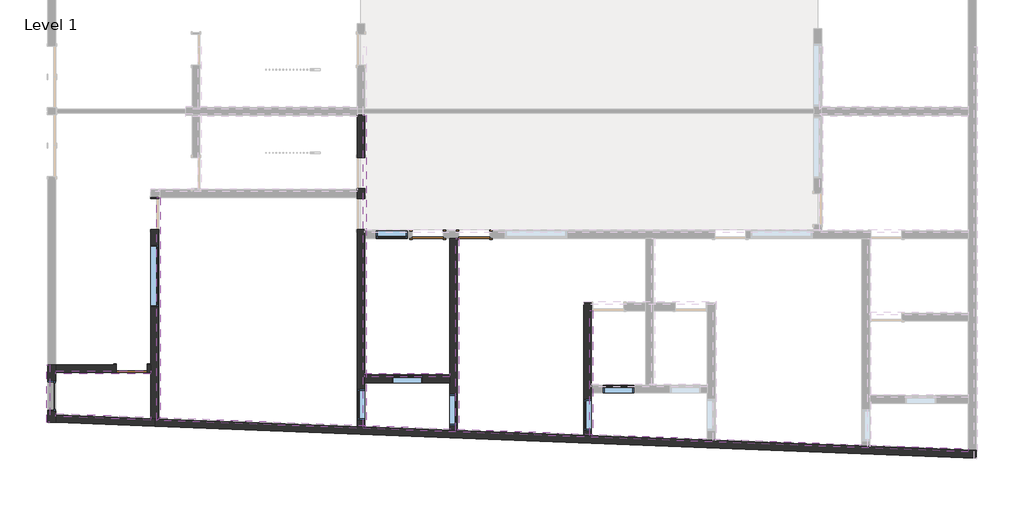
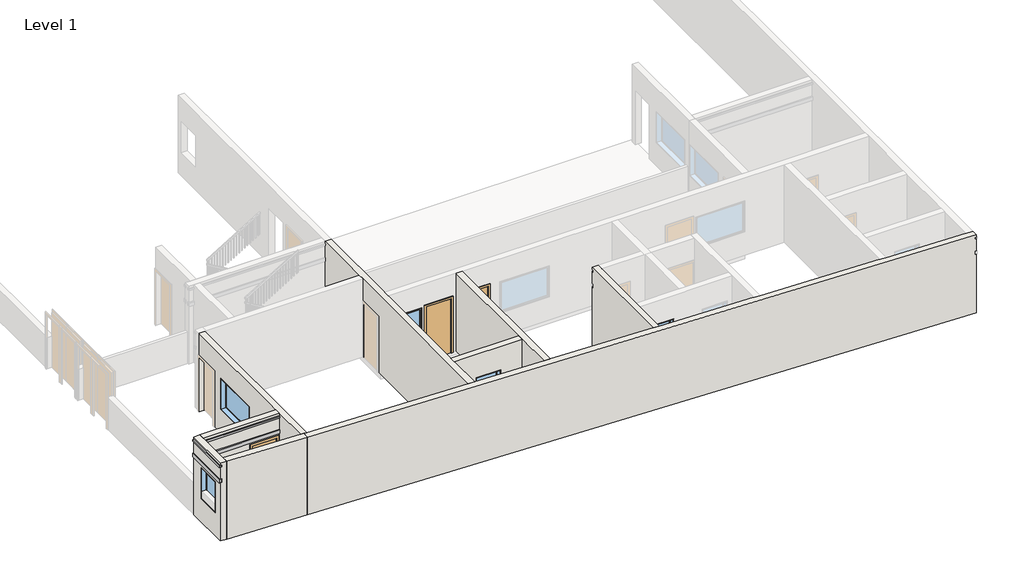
# One storey, part 1 of 5: 18 proxies, 9 walls, 8 windows, 3 doors.
"""IFC4 building model written with IfcOpenShell, lengths in millimetres."""

from ifc_helpers import new_model, si_unit, frame, origin, place, context, project, spatial, polyline, outline, extrude, faceted_brep, transform, mapped, element, save
from components import door_0ca8825f, door_a90ba1ad, window_c1f32544, window_26734613, fixed_6_x4_596a66d7

model = new_model("IFC4")

# Units and contexts
model_context = context("Model", 3, world=origin())
ifc_project = project(units=[si_unit("LENGTHUNIT", "METRE", prefix="MILLI")], contexts=[model_context])

# Site, building, storey
site = spatial("IfcSite", under=ifc_project)
building = spatial("IfcBuilding", under=site)
storey = spatial("IfcBuildingStorey", under=building, Name="Level 1", Elevation=0.0)

# Proxies
placement = place(None, origin())
element("IfcBuildingElementProxy", 1, Name="Reveals", at=placement, inside=storey, context=model_context, shape_type="SweptSolid", body=[
    extrude(outline(polyline([(-7864.3892301, 3342.8239224), (-7772.3142301, 3342.8239224), (-7772.3142301, -5885.6857908), (-7864.3892301, -5885.6857908), (-7864.3892301, 3342.8239224)])), frame((0.0, 0.0, 2895.6), z_axis=(0.0, 0.0, 1.0), x_axis=(1.0, 0.0, 0.0)), (0.0, 0.0, 1.0), 67.7333333),
])
element("IfcBuildingElementProxy", 2, Name="Reveals", at=placement, inside=storey, context=model_context, shape_type="SweptSolid", body=[
    extrude(outline(polyline([(-13960.3892301, -5697.4819677), (-13868.3142301, -5608.9180638), (10042.6107699, -6538.7873694), (10042.6107699, -6630.9319677), (-13960.3892301, -5697.4819677)])), frame((0.0, 0.0, 2895.6), z_axis=(0.0, 0.0, 1.0), x_axis=(1.0, 0.0, 0.0)), (0.0, 0.0, 1.0), 67.7333333),
])
element("IfcBuildingElementProxy", 3, Name="Reveals", at=placement, inside=storey, context=model_context, shape_type="SweptSolid", body=[
    extrude(outline(polyline([(-17135.3892301, -5751.9441422), (-17227.4642301, -5748.3634477), (-17227.4642301, -4048.5760776), (-17135.3892301, -4048.5760776), (-17135.3892301, -5751.9441422)])), frame((0.0, 0.0, 2895.6), z_axis=(0.0, 0.0, 1.0), x_axis=(1.0, 0.0, 0.0)), (0.0, 0.0, 1.0), 67.7333333),
])
element("IfcBuildingElementProxy", 4, Name="Reveals", at=placement, inside=storey, context=model_context, shape_type="SweptSolid", body=[
    extrude(outline(polyline([(-16957.5892301, -5580.9241899), (-16957.5892301, -5488.7795916), (-14138.1892301, -5598.4229249), (-14138.1892301, -5690.5675232), (-16957.5892301, -5580.9241899)])), frame((0.0, 0.0, 2895.6), z_axis=(0.0, 0.0, 1.0), x_axis=(1.0, 0.0, 0.0)), (0.0, 0.0, 1.0), 67.7333333),
])
element("IfcBuildingElementProxy", 5, Name="Reveals", at=placement, inside=storey, context=model_context, shape_type="SweptSolid", body=[
    extrude(outline(polyline([(-13960.3892301, 904.4239224), (-13868.3142301, 904.4239224), (-13868.3142301, -5608.9180638), (-13960.3892301, -5697.4819677), (-13960.3892301, 904.4239224)])), frame((0.0, 0.0, 2895.6), z_axis=(0.0, 0.0, 1.0), x_axis=(1.0, 0.0, 0.0)), (0.0, 0.0, 1.0), 67.7333333),
])
element("IfcBuildingElementProxy", 6, Name="Reveals", at=placement, inside=storey, context=model_context, shape_type="SweptSolid", body=[
    extrude(outline(polyline([(-5121.1892301, -314.7760776), (-5029.1142301, -314.7760776), (-5029.1142301, -5992.3657908), (-5121.1892301, -5992.3657908), (-5121.1892301, -314.7760776)])), frame((0.0, 0.0, 2895.6), z_axis=(0.0, 0.0, 1.0), x_axis=(1.0, 0.0, 0.0)), (0.0, 0.0, 1.0), 67.7333333),
])
element("IfcBuildingElementProxy", 7, Name="Reveals", at=placement, inside=storey, context=model_context, shape_type="SweptSolid", body=[
    extrude(outline(polyline([(-7813.5892301, -4404.1760776), (-7813.5892301, -4312.1010776), (-5298.9892301, -4312.1010776), (-5298.9892301, -4404.1760776), (-7813.5892301, -4404.1760776)])), frame((0.0, 0.0, 2895.6), z_axis=(0.0, 0.0, 1.0), x_axis=(1.0, 0.0, 0.0)), (0.0, 0.0, 1.0), 67.7333333),
])
element("IfcBuildingElementProxy", 8, Name="Reveals", at=placement, inside=storey, context=model_context, shape_type="SweptSolid", body=[
    extrude(outline(polyline([(-1158.7892301, -2448.3760776), (-1066.7142301, -2448.3760776), (-1066.7142301, -6146.4591242), (-1158.7892301, -6146.4591242), (-1158.7892301, -2448.3760776)])), frame((0.0, 0.0, 2895.6), z_axis=(0.0, 0.0, 1.0), x_axis=(1.0, 0.0, 0.0)), (0.0, 0.0, 1.0), 67.7333333),
])
element("IfcBuildingElementProxy", 9, Name="Reveals", at=placement, inside=storey, context=model_context, shape_type="SweptSolid", body=[
    extrude(outline(polyline([(-14138.1892301, -4226.3760776), (-14138.1892301, -4318.4510776), (-16957.5892301, -4318.4510776), (-16957.5892301, -4226.3760776), (-14138.1892301, -4226.3760776)])), frame((0.0, 0.0, 2895.6), z_axis=(0.0, 0.0, 1.0), x_axis=(1.0, 0.0, 0.0)), (0.0, 0.0, 1.0), 67.7333333),
])
element("IfcBuildingElementProxy", 10, Name="Reveals", at=placement, inside=storey, context=model_context, shape_type="SweptSolid", body=[
    extrude(outline(polyline([(-7864.3892301, 3342.8239224), (-7772.3142301, 3342.8239224), (-7772.3142301, -5885.6857908), (-7864.3892301, -5885.6857908), (-7864.3892301, 3342.8239224)])), frame((0.0, 0.0, 2286.0), z_axis=(0.0, 0.0, 1.0), x_axis=(1.0, 0.0, 0.0)), (0.0, 0.0, 1.0), 135.4666667),
])
element("IfcBuildingElementProxy", 11, Name="Reveals", at=placement, inside=storey, context=model_context, shape_type="SweptSolid", body=[
    extrude(outline(polyline([(-13960.3892301, -5697.4819677), (-13868.3142301, -5608.9180638), (10042.6107699, -6538.7873694), (10042.6107699, -6630.9319677), (-13960.3892301, -5697.4819677)])), frame((0.0, 0.0, 2286.0), z_axis=(0.0, 0.0, 1.0), x_axis=(1.0, 0.0, 0.0)), (0.0, 0.0, 1.0), 135.4666667),
])
element("IfcBuildingElementProxy", 12, Name="Reveals", at=placement, inside=storey, context=model_context, shape_type="SweptSolid", body=[
    extrude(outline(polyline([(-17135.3892301, -5751.9441422), (-17227.4642301, -5748.3634477), (-17227.4642301, -4048.5760776), (-17135.3892301, -4048.5760776), (-17135.3892301, -5751.9441422)])), frame((0.0, 0.0, 2286.0), z_axis=(0.0, 0.0, 1.0), x_axis=(1.0, 0.0, 0.0)), (0.0, 0.0, 1.0), 135.4666667),
])
element("IfcBuildingElementProxy", 13, Name="Reveals", at=placement, inside=storey, context=model_context, shape_type="SweptSolid", body=[
    extrude(outline(polyline([(-16957.5892301, -5580.9241899), (-16957.5892301, -5488.7795916), (-14138.1892301, -5598.4229249), (-14138.1892301, -5690.5675232), (-16957.5892301, -5580.9241899)])), frame((0.0, 0.0, 2286.0), z_axis=(0.0, 0.0, 1.0), x_axis=(1.0, 0.0, 0.0)), (0.0, 0.0, 1.0), 135.4666667),
])
element("IfcBuildingElementProxy", 14, Name="Reveals", at=placement, inside=storey, context=model_context, shape_type="SweptSolid", body=[
    extrude(outline(polyline([(-13960.3892301, 904.4239224), (-13868.3142301, 904.4239224), (-13868.3142301, -5608.9180638), (-13960.3892301, -5697.4819677), (-13960.3892301, 904.4239224)])), frame((0.0, 0.0, 2286.0), z_axis=(0.0, 0.0, 1.0), x_axis=(1.0, 0.0, 0.0)), (0.0, 0.0, 1.0), 135.4666667),
])
element("IfcBuildingElementProxy", 15, Name="Reveals", at=placement, inside=storey, context=model_context, shape_type="SweptSolid", body=[
    extrude(outline(polyline([(-5121.1892301, -314.7760776), (-5029.1142301, -314.7760776), (-5029.1142301, -5992.3657908), (-5121.1892301, -5992.3657908), (-5121.1892301, -314.7760776)])), frame((0.0, 0.0, 2286.0), z_axis=(0.0, 0.0, 1.0), x_axis=(1.0, 0.0, 0.0)), (0.0, 0.0, 1.0), 135.4666667),
])
element("IfcBuildingElementProxy", 16, Name="Reveals", at=placement, inside=storey, context=model_context, shape_type="SweptSolid", body=[
    extrude(outline(polyline([(-7813.5892301, -4404.1760776), (-7813.5892301, -4312.1010776), (-5298.9892301, -4312.1010776), (-5298.9892301, -4404.1760776), (-7813.5892301, -4404.1760776)])), frame((0.0, 0.0, 2286.0), z_axis=(0.0, 0.0, 1.0), x_axis=(1.0, 0.0, 0.0)), (0.0, 0.0, 1.0), 135.4666667),
])
element("IfcBuildingElementProxy", 17, Name="Reveals", at=placement, inside=storey, context=model_context, shape_type="SweptSolid", body=[
    extrude(outline(polyline([(-1158.7892301, -2448.3760776), (-1066.7142301, -2448.3760776), (-1066.7142301, -6146.4591242), (-1158.7892301, -6146.4591242), (-1158.7892301, -2448.3760776)])), frame((0.0, 0.0, 2286.0), z_axis=(0.0, 0.0, 1.0), x_axis=(1.0, 0.0, 0.0)), (0.0, 0.0, 1.0), 135.4666667),
])
element("IfcBuildingElementProxy", 18, Name="Reveals", at=placement, inside=storey, context=model_context, shape_type="SweptSolid", body=[
    extrude(outline(polyline([(-14138.1892301, -4226.3760776), (-14138.1892301, -4318.4510776), (-16957.5892301, -4318.4510776), (-16957.5892301, -4226.3760776), (-14138.1892301, -4226.3760776)])), frame((0.0, 0.0, 2286.0), z_axis=(0.0, 0.0, 1.0), x_axis=(1.0, 0.0, 0.0)), (0.0, 0.0, 1.0), 135.4666667),
])

# Doors
door_shape = door_0ca8825f(model_context)
element("IfcDoor", 19, ObjectType="Single-Flush : 36\" x 84\"", at=placement, inside=storey, context=model_context, shape_type="MappedRepresentation", body=[
    mapped(door_shape, transform((-4575.0892301, -200.4760776, 0.0), x_axis=(-1.0, 0.0, 0.0), y_axis=(0.0, -1.0, 0.0), z_axis=(0.0, 0.0, 1.0))),
])
door_2_shape = door_a90ba1ad(model_context)
element("IfcDoor", 20, ObjectType="Single-Flush : 36\" x 84\"", at=placement, inside=storey, context=model_context, shape_type="MappedRepresentation", body=[
    mapped(door_2_shape, transform((-5946.6892301, -200.4760776, 0.0), x_axis=(1.0, 0.0, 0.0), y_axis=(0.0, 1.0, 0.0), z_axis=(0.0, 0.0, 1.0))),
])
element("IfcDoor", 21, ObjectType="Single-Flush : 36\" x 84\"", at=placement, inside=storey, context=model_context, shape_type="MappedRepresentation", body=[
    mapped(door_2_shape, transform((-14709.6892301, -4162.8760776, 0.0), x_axis=(1.0, 0.0, 0.0), y_axis=(0.0, 1.0, 0.0), z_axis=(0.0, 0.0, 1.0))),
])

# Walls
element("IfcWall", 22, ObjectType="9\" thick brick wall", at=placement, inside=storey, context=model_context, shape_type="Brep", body=[
    faceted_brep([(-16957.5892301, -5758.8585866, 0.0), (-16957.5892301, -5530.0857908, 0.0), (-16957.5892301, -4277.1760776, 0.0), (-16957.5892301, -4048.5760776, 0.0), (-16957.5892301, -4048.5760776, 3048.0), (-16957.5892301, -4277.1760776, 3048.0), (-16957.5892301, -5530.0857908, 3048.0), (-16957.5892301, -5758.8585866, 3048.0), (-16957.5892301, -4518.4760776, 2133.6), (-16957.5892301, -4518.4760776, 914.4), (-16957.5892301, -5432.8760776, 914.4), (-16957.5892301, -5432.8760776, 2133.6), (-17186.1892301, -4048.5760776, 0.0), (-17186.1892301, -5749.9685866, 0.0), (-17186.1892301, -5749.9685866, 2286.0), (-17186.1892301, -4048.5760776, 2286.0), (-17186.1892301, -4518.4760776, 914.4), (-17186.1892301, -4518.4760776, 2133.6), (-17186.1892301, -5432.8760776, 2133.6), (-17186.1892301, -5432.8760776, 914.4), (-17186.1892301, -5749.9685866, 3048.0), (-17186.1892301, -4048.5760776, 3048.0), (-17186.1892301, -4048.5760776, 2963.3333333), (-17186.1892301, -5749.9685866, 2963.3333333), (-17186.1892301, -5749.9685866, 2895.6), (-17186.1892301, -4048.5760776, 2895.6), (-17186.1892301, -4048.5760776, 2421.4666667), (-17186.1892301, -5749.9685866, 2421.4666667), (-17135.3892301, -5751.9441422, 2963.3333333), (-17135.3892301, -5751.9441422, 2895.6), (-17135.3892301, -5751.9441422, 2421.4666667), (-17135.3892301, -5751.9441422, 2286.0), (-17135.3892301, -4048.5760776, 2286.0), (-17135.3892301, -4048.5760776, 2421.4666667), (-17135.3892301, -4048.5760776, 2895.6), (-17135.3892301, -4048.5760776, 2963.3333333)], [[[0, 1, 2, 3, 4, 5, 6, 7], [8, 9, 10, 11]], [[12, 13, 14, 15], [16, 17, 18, 19]], [[20, 21, 22, 23]], [[24, 25, 26, 27]], [[3, 2, 1, 0, 13, 12]], [[7, 6, 5, 4, 21, 20]], [[13, 0, 7, 20, 23, 28, 29, 24, 27, 30, 31, 14]], [[4, 3, 12, 15, 32, 33, 26, 25, 34, 35, 22, 21]], [[9, 8, 17, 16]], [[10, 9, 16, 19]], [[11, 10, 19, 18]], [[8, 11, 18, 17]], [[35, 28, 23, 22]], [[29, 34, 25, 24]], [[28, 35, 34, 29]], [[33, 30, 27, 26]], [[31, 32, 15, 14]], [[30, 33, 32, 31]]]),
])
element("IfcWall", 23, ObjectType="9\" thick brick wall", at=placement, inside=storey, context=model_context, shape_type="Brep", body=[
    faceted_brep([(-16957.5892301, -5758.8585866, 0.0), (-14028.3308727, -5872.7741894, 0.0), (-14028.3308727, -5872.7741894, 3048.0), (-16957.5892301, -5758.8585866, 3048.0), (-14019.4475875, -5644.3468547, 0.0), (-14138.1892301, -5639.7291242, 0.0), (-16957.5892301, -5530.0857908, 0.0), (-16957.5892301, -5530.0857908, 2286.0), (-14138.1892301, -5639.7291242, 2286.0), (-14138.1892301, -5639.7291242, 2421.4666667), (-16957.5892301, -5530.0857908, 2421.4666667), (-16957.5892301, -5530.0857908, 2895.6), (-14138.1892301, -5639.7291242, 2895.6), (-14138.1892301, -5639.7291242, 2963.3333333), (-16957.5892301, -5530.0857908, 2963.3333333), (-16957.5892301, -5530.0857908, 3048.0), (-14138.1892301, -5639.7291242, 3048.0), (-14019.4475875, -5644.3468547, 3048.0), (-16957.5892301, -5580.9241899, 2963.3333333), (-16957.5892301, -5580.9241899, 2895.6), (-16957.5892301, -5580.9241899, 2421.4666667), (-16957.5892301, -5580.9241899, 2286.0), (-14138.1892301, -5690.5675232, 2895.6), (-14138.1892301, -5690.5675232, 2963.3333333), (-14138.1892301, -5690.5675232, 2286.0), (-14138.1892301, -5690.5675232, 2421.4666667)], [[[0, 1, 2, 3]], [[4, 5, 6, 7, 8, 9, 10, 11, 12, 13, 14, 15, 16, 17]], [[1, 0, 6, 5, 4]], [[2, 1, 4, 17]], [[3, 2, 17, 16, 15]], [[0, 3, 15, 14, 18, 19, 11, 10, 20, 21, 7, 6]], [[22, 23, 13, 12]], [[23, 18, 14, 13]], [[19, 22, 12, 11]], [[23, 22, 19, 18]], [[24, 25, 9, 8]], [[25, 20, 10, 9]], [[21, 24, 8, 7]], [[25, 24, 21, 20]]]),
])
element("IfcWall", 24, ObjectType="9\" thick brick wall", at=placement, inside=storey, context=model_context, shape_type="Brep", body=[
    faceted_brep([(-14138.1892301, -5639.7291242, 3048.0), (-14138.1892301, -4277.1760776, 3048.0), (-14138.1892301, -4048.5760776, 3048.0), (-14138.1892301, 904.4239224, 3048.0), (-14138.1892301, 904.4239224, 0.0), (-14138.1892301, 866.3239224, 0.0), (-14138.1892301, 866.3239224, 2133.6), (-14138.1892301, -48.0760776, 2133.6), (-14138.1892301, -48.0760776, 0.0), (-14138.1892301, -4048.5760776, 0.0), (-14138.1892301, -4277.1760776, 0.0), (-14138.1892301, -5639.7291242, 0.0), (-14138.1892301, -5639.7291242, 2286.0), (-14138.1892301, -5639.7291242, 2421.4666667), (-14138.1892301, -5639.7291242, 2895.6), (-14138.1892301, -5639.7291242, 2963.3333333), (-14138.1892301, -505.2760776, 914.4), (-14138.1892301, -505.2760776, 2133.6), (-14138.1892301, -2334.0760776, 2133.6), (-14138.1892301, -2334.0760776, 914.4), (-13909.5892301, 904.4239224, 3048.0), (-13909.5892301, -5648.6191242, 3048.0), (-13909.5892301, -5648.6191242, 2963.3333333), (-13909.5892301, 904.4239224, 2963.3333333), (-13909.5892301, 866.3239224, 2133.6), (-13909.5892301, 866.3239224, 0.0), (-13909.5892301, 904.4239224, 0.0), (-13909.5892301, 904.4239224, 2286.0), (-13909.5892301, -5648.6191242, 2286.0), (-13909.5892301, -5648.6191242, 0.0), (-13909.5892301, -48.0760776, 0.0), (-13909.5892301, -48.0760776, 2133.6), (-13909.5892301, -505.2760776, 2133.6), (-13909.5892301, -505.2760776, 914.4), (-13909.5892301, -2334.0760776, 914.4), (-13909.5892301, -2334.0760776, 2133.6), (-13909.5892301, 904.4239224, 2895.6), (-13909.5892301, -5648.6191242, 2895.6), (-13909.5892301, -5648.6191242, 2421.4666667), (-13909.5892301, 904.4239224, 2421.4666667), (-14019.4475875, -5644.3468547, 0.0), (-14019.4475875, -5644.3468547, 3048.0), (-13960.3892301, -5646.6435686, 2286.0), (-13960.3892301, -5646.6435686, 2421.4666667), (-13960.3892301, -5646.6435686, 2895.6), (-13960.3892301, -5646.6435686, 2963.3333333), (-13960.3892301, 904.4239224, 2963.3333333), (-13960.3892301, 904.4239224, 2895.6), (-13960.3892301, 904.4239224, 2421.4666667), (-13960.3892301, 904.4239224, 2286.0)], [[[0, 1, 2, 3, 4, 5, 6, 7, 8, 9, 10, 11, 12, 13, 14, 15], [16, 17, 18, 19]], [[20, 21, 22, 23]], [[24, 25, 26, 27, 28, 29, 30, 31], [32, 33, 34, 35]], [[36, 37, 38, 39]], [[29, 40, 11, 10, 9, 8, 30]], [[4, 26, 25, 5]], [[3, 2, 1, 0, 41, 21, 20]], [[11, 40, 29, 28, 42, 43, 38, 37, 44, 45, 22, 21, 41, 0, 15, 14, 13, 12]], [[4, 3, 20, 23, 46, 47, 36, 39, 48, 49, 27, 26]], [[6, 5, 25, 24]], [[7, 6, 24, 31]], [[8, 7, 31, 30]], [[33, 32, 17, 16]], [[34, 33, 16, 19]], [[35, 34, 19, 18]], [[32, 35, 18, 17]], [[45, 46, 23, 22]], [[47, 44, 37, 36]], [[44, 47, 46, 45]], [[43, 48, 39, 38]], [[49, 42, 28, 27]], [[48, 43, 42, 49]]]),
])
element("IfcWall", 25, ObjectType="9\" thick brick wall", at=placement, inside=storey, context=model_context, shape_type="Brep", body=[
    faceted_brep([(-8042.1892301, -5876.7957908, 3048.0), (-8042.1892301, 904.4239224, 3048.0), (-8042.1892301, 1133.0239224, 3048.0), (-8042.1892301, 3342.8239224, 3048.0), (-8042.1892301, 3342.8239224, 2963.3333333), (-8042.1892301, 3342.8239224, 2895.6), (-8042.1892301, 3342.8239224, 2421.4666667), (-8042.1892301, 3342.8239224, 2286.0), (-8042.1892301, 3342.8239224, 0.0), (-8042.1892301, 2085.5239224, 0.0), (-8042.1892301, 2085.5239224, 2133.6), (-8042.1892301, 1171.1239224, 2133.6), (-8042.1892301, 1171.1239224, 0.0), (-8042.1892301, 1133.0239224, 0.0), (-8042.1892301, 904.4239224, 0.0), (-8042.1892301, 866.3239224, 0.0), (-8042.1892301, 866.3239224, 2133.6), (-8042.1892301, -48.0760776, 2133.6), (-8042.1892301, -48.0760776, 0.0), (-8042.1892301, -5876.7957908, 0.0), (-8042.1892301, -5686.8760776, 2133.6), (-8042.1892301, -5686.8760776, 914.4), (-8042.1892301, -4772.4760776, 914.4), (-8042.1892301, -4772.4760776, 2133.6), (-7813.5892301, 3342.8239224, 3048.0), (-7813.5892301, -86.1760776, 3048.0), (-7813.5892301, -314.7760776, 3048.0), (-7813.5892301, -4353.3760776, 3048.0), (-7813.5892301, -4581.9760776, 3048.0), (-7813.5892301, -5885.6857908, 3048.0), (-7813.5892301, -5885.6857908, 2963.3333333), (-7813.5892301, 3342.8239224, 2963.3333333), (-7813.5892301, 866.3239224, 2133.6), (-7813.5892301, 866.3239224, 0.0), (-7813.5892301, 1171.1239224, 0.0), (-7813.5892301, 1171.1239224, 2133.6), (-7813.5892301, 2085.5239224, 2133.6), (-7813.5892301, 2085.5239224, 0.0), (-7813.5892301, 3342.8239224, 0.0), (-7813.5892301, 3342.8239224, 2286.0), (-7813.5892301, -5885.6857908, 2286.0), (-7813.5892301, -5885.6857908, 0.0), (-7813.5892301, -4581.9760776, 0.0), (-7813.5892301, -4353.3760776, 0.0), (-7813.5892301, -314.7760776, 0.0), (-7813.5892301, -86.1760776, 0.0), (-7813.5892301, -48.0760776, 0.0), (-7813.5892301, -48.0760776, 2133.6), (-7813.5892301, -5686.8760776, 914.4), (-7813.5892301, -5686.8760776, 2133.6), (-7813.5892301, -4772.4760776, 2133.6), (-7813.5892301, -4772.4760776, 914.4), (-7813.5892301, 3342.8239224, 2895.6), (-7813.5892301, -5885.6857908, 2895.6), (-7813.5892301, -5885.6857908, 2421.4666667), (-7813.5892301, 3342.8239224, 2421.4666667), (-7864.3892301, -5883.7102353, 2286.0), (-7864.3892301, -5883.7102353, 2421.4666667), (-7864.3892301, -5883.7102353, 2895.6), (-7864.3892301, -5883.7102353, 2963.3333333), (-7864.3892301, 3342.8239224, 2963.3333333), (-7864.3892301, 3342.8239224, 2895.6), (-7864.3892301, 3342.8239224, 2421.4666667), (-7864.3892301, 3342.8239224, 2286.0)], [[[0, 1, 2, 3, 4, 5, 6, 7, 8, 9, 10, 11, 12, 13, 14, 15, 16, 17, 18, 19], [20, 21, 22, 23]], [[24, 25, 26, 27, 28, 29, 30, 31]], [[32, 33, 34, 35, 36, 37, 38, 39, 40, 41, 42, 43, 44, 45, 46, 47], [48, 49, 50, 51]], [[52, 53, 54, 55]], [[41, 19, 18, 46, 45, 44, 43, 42]], [[8, 38, 37, 9]], [[33, 15, 14, 13, 12, 34]], [[3, 2, 1, 0, 29, 28, 27, 26, 25, 24]], [[0, 19, 41, 40, 56, 57, 54, 53, 58, 59, 30, 29]], [[3, 24, 31, 60, 61, 52, 55, 62, 63, 39, 38, 8, 7, 6, 5, 4]], [[16, 15, 33, 32]], [[17, 16, 32, 47]], [[18, 17, 47, 46]], [[35, 34, 12, 11]], [[36, 35, 11, 10]], [[37, 36, 10, 9]], [[21, 20, 49, 48]], [[22, 21, 48, 51]], [[23, 22, 51, 50]], [[20, 23, 50, 49]], [[59, 60, 31, 30]], [[61, 58, 53, 52]], [[58, 61, 60, 59]], [[57, 62, 55, 54]], [[63, 56, 40, 39]], [[62, 57, 56, 63]]]),
])
element("IfcWall", 26, ObjectType="9\" thick brick wall", at=placement, inside=storey, context=model_context, shape_type="Brep", body=[
    faceted_brep([(-5298.9892301, -314.7760776, 0.0), (-5298.9892301, -4353.3760776, 0.0), (-5298.9892301, -4581.9760776, 0.0), (-5298.9892301, -5983.4757908, 0.0), (-5298.9892301, -5983.4757908, 3048.0), (-5298.9892301, -4581.9760776, 3048.0), (-5298.9892301, -4353.3760776, 3048.0), (-5298.9892301, -314.7760776, 3048.0), (-5298.9892301, -4924.8760776, 914.4), (-5298.9892301, -4924.8760776, 2133.6), (-5298.9892301, -5839.2760776, 2133.6), (-5298.9892301, -5839.2760776, 914.4), (-5070.3892301, -5992.3657908, 0.0), (-5070.3892301, -314.7760776, 0.0), (-5070.3892301, -314.7760776, 2286.0), (-5070.3892301, -5992.3657908, 2286.0), (-5070.3892301, -4924.8760776, 2133.6), (-5070.3892301, -4924.8760776, 914.4), (-5070.3892301, -5839.2760776, 914.4), (-5070.3892301, -5839.2760776, 2133.6), (-5070.3892301, -314.7760776, 3048.0), (-5070.3892301, -5992.3657908, 3048.0), (-5070.3892301, -5992.3657908, 2963.3333333), (-5070.3892301, -314.7760776, 2963.3333333), (-5070.3892301, -314.7760776, 2895.6), (-5070.3892301, -5992.3657908, 2895.6), (-5070.3892301, -5992.3657908, 2421.4666667), (-5070.3892301, -314.7760776, 2421.4666667), (-5121.1892301, -314.7760776, 2963.3333333), (-5121.1892301, -314.7760776, 2895.6), (-5121.1892301, -314.7760776, 2421.4666667), (-5121.1892301, -314.7760776, 2286.0), (-5121.1892301, -5990.3902353, 2286.0), (-5121.1892301, -5990.3902353, 2421.4666667), (-5121.1892301, -5990.3902353, 2895.6), (-5121.1892301, -5990.3902353, 2963.3333333)], [[[0, 1, 2, 3, 4, 5, 6, 7], [8, 9, 10, 11]], [[12, 13, 14, 15], [16, 17, 18, 19]], [[20, 21, 22, 23]], [[24, 25, 26, 27]], [[3, 2, 1, 0, 13, 12]], [[7, 6, 5, 4, 21, 20]], [[0, 7, 20, 23, 28, 29, 24, 27, 30, 31, 14, 13]], [[4, 3, 12, 15, 32, 33, 26, 25, 34, 35, 22, 21]], [[17, 16, 9, 8]], [[18, 17, 8, 11]], [[19, 18, 11, 10]], [[16, 19, 10, 9]], [[35, 28, 23, 22]], [[29, 34, 25, 24]], [[34, 29, 28, 35]], [[33, 30, 27, 26]], [[31, 32, 15, 14]], [[30, 33, 32, 31]]]),
])
element("IfcWall", 27, ObjectType="9\" thick brick wall", at=placement, inside=storey, context=model_context, shape_type="Brep", body=[
    faceted_brep([(-7813.5892301, -4581.9760776, 0.0), (-5298.9892301, -4581.9760776, 0.0), (-5298.9892301, -4581.9760776, 3048.0), (-7813.5892301, -4581.9760776, 3048.0), (-7013.4892301, -4581.9760776, 914.4), (-7013.4892301, -4581.9760776, 2133.6), (-6099.0892301, -4581.9760776, 2133.6), (-6099.0892301, -4581.9760776, 914.4), (-5298.9892301, -4353.3760776, 0.0), (-7813.5892301, -4353.3760776, 0.0), (-7813.5892301, -4353.3760776, 2286.0), (-5298.9892301, -4353.3760776, 2286.0), (-7013.4892301, -4353.3760776, 2133.6), (-7013.4892301, -4353.3760776, 914.4), (-6099.0892301, -4353.3760776, 914.4), (-6099.0892301, -4353.3760776, 2133.6), (-7813.5892301, -4353.3760776, 3048.0), (-5298.9892301, -4353.3760776, 3048.0), (-5298.9892301, -4353.3760776, 2963.3333333), (-7813.5892301, -4353.3760776, 2963.3333333), (-7813.5892301, -4353.3760776, 2895.6), (-5298.9892301, -4353.3760776, 2895.6), (-5298.9892301, -4353.3760776, 2421.4666667), (-7813.5892301, -4353.3760776, 2421.4666667), (-7813.5892301, -4404.1760776, 2963.3333333), (-7813.5892301, -4404.1760776, 2895.6), (-7813.5892301, -4404.1760776, 2421.4666667), (-7813.5892301, -4404.1760776, 2286.0), (-5298.9892301, -4404.1760776, 2286.0), (-5298.9892301, -4404.1760776, 2421.4666667), (-5298.9892301, -4404.1760776, 2895.6), (-5298.9892301, -4404.1760776, 2963.3333333)], [[[0, 1, 2, 3], [4, 5, 6, 7]], [[8, 9, 10, 11], [12, 13, 14, 15]], [[16, 17, 18, 19]], [[20, 21, 22, 23]], [[1, 0, 9, 8]], [[3, 2, 17, 16]], [[0, 3, 16, 19, 24, 25, 20, 23, 26, 27, 10, 9]], [[2, 1, 8, 11, 28, 29, 22, 21, 30, 31, 18, 17]], [[13, 12, 5, 4]], [[14, 13, 4, 7]], [[15, 14, 7, 6]], [[12, 15, 6, 5]], [[31, 24, 19, 18]], [[25, 30, 21, 20]], [[24, 31, 30, 25]], [[29, 26, 23, 22]], [[27, 28, 11, 10]], [[26, 29, 28, 27]]]),
])
element("IfcWall", 28, ObjectType="9\" thick brick wall", at=placement, inside=storey, context=model_context, shape_type="Brep", body=[
    faceted_brep([(-1336.5892301, -2219.7760776, 0.0), (-1336.5892301, -6137.5691242, 0.0), (-1336.5892301, -6137.5691242, 3048.0), (-1336.5892301, -2219.7760776, 3048.0), (-1336.5892301, -2219.7760776, 2963.3333333), (-1336.5892301, -2270.5760776, 2963.3333333), (-1336.5892301, -2270.5760776, 2895.6), (-1336.5892301, -2219.7760776, 2895.6), (-1336.5892301, -2219.7760776, 2421.4666667), (-1336.5892301, -2270.5760776, 2421.4666667), (-1336.5892301, -2270.5760776, 2286.0), (-1336.5892301, -2219.7760776, 2286.0), (-1336.5892301, -5991.6760776, 2133.6), (-1336.5892301, -5991.6760776, 914.4), (-1336.5892301, -5077.2760776, 914.4), (-1336.5892301, -5077.2760776, 2133.6), (-1107.9892301, -6146.4591242, 0.0), (-1107.9892301, -4886.7760776, 0.0), (-1107.9892301, -4658.1760776, 0.0), (-1107.9892301, -2448.3760776, 0.0), (-1107.9892301, -2219.7760776, 0.0), (-1107.9892301, -2219.7760776, 2286.0), (-1107.9892301, -2270.5760776, 2286.0), (-1107.9892301, -2270.5760776, 2421.4666667), (-1107.9892301, -2219.7760776, 2421.4666667), (-1107.9892301, -2219.7760776, 2895.6), (-1107.9892301, -2270.5760776, 2895.6), (-1107.9892301, -2270.5760776, 2963.3333333), (-1107.9892301, -2219.7760776, 2963.3333333), (-1107.9892301, -2219.7760776, 3048.0), (-1107.9892301, -2448.3760776, 3048.0), (-1107.9892301, -4658.1760776, 3048.0), (-1107.9892301, -4886.7760776, 3048.0), (-1107.9892301, -6146.4591242, 3048.0), (-1107.9892301, -6146.4591242, 2963.3333333), (-1107.9892301, -2448.3760776, 2963.3333333), (-1107.9892301, -2448.3760776, 2895.6), (-1107.9892301, -6146.4591242, 2895.6), (-1107.9892301, -6146.4591242, 2421.4666667), (-1107.9892301, -2448.3760776, 2421.4666667), (-1107.9892301, -2448.3760776, 2286.0), (-1107.9892301, -6146.4591242, 2286.0), (-1107.9892301, -5991.6760776, 914.4), (-1107.9892301, -5991.6760776, 2133.6), (-1107.9892301, -5077.2760776, 2133.6), (-1107.9892301, -5077.2760776, 914.4), (-1158.7892301, -6144.4835686, 2286.0), (-1158.7892301, -6144.4835686, 2421.4666667), (-1158.7892301, -6144.4835686, 2895.6), (-1158.7892301, -6144.4835686, 2963.3333333), (-1158.7892301, -2448.3760776, 2963.3333333), (-1158.7892301, -2448.3760776, 2895.6), (-1158.7892301, -2448.3760776, 2421.4666667), (-1158.7892301, -2448.3760776, 2286.0)], [[[0, 1, 2, 3, 4, 5, 6, 7, 8, 9, 10, 11], [12, 13, 14, 15]], [[16, 17, 18, 19, 20, 21, 22, 23, 24, 25, 26, 27, 28, 29, 30, 31, 32, 33, 34, 35, 36, 37, 38, 39, 40, 41], [42, 43, 44, 45]], [[1, 0, 20, 19, 18, 17, 16]], [[3, 2, 33, 32, 31, 30, 29]], [[3, 29, 28, 4]], [[20, 0, 11, 21]], [[7, 25, 24, 8]], [[2, 1, 16, 41, 46, 47, 38, 37, 48, 49, 34, 33]], [[13, 12, 43, 42]], [[14, 13, 42, 45]], [[15, 14, 45, 44]], [[12, 15, 44, 43]], [[50, 51, 36, 35]], [[50, 35, 34, 49]], [[36, 51, 48, 37]], [[51, 50, 49, 48]], [[27, 5, 4, 28]], [[6, 26, 25, 7]], [[26, 6, 5, 27]], [[52, 53, 40, 39]], [[52, 39, 38, 47]], [[40, 53, 46, 41]], [[53, 52, 47, 46]], [[23, 9, 8, 24]], [[10, 22, 21, 11]], [[9, 23, 22, 10]]]),
])
element("IfcWall", 29, ObjectType="9\" thick brick wall", at=placement, inside=storey, context=model_context, shape_type="Brep", body=[
    faceted_brep([(-14028.3308727, -5872.7741894, 0.0), (10271.2107699, -6817.7563644, 0.0), (10271.2107699, -6817.7563644, 2286.0), (10220.4107699, -6815.7808089, 2286.0), (10220.4107699, -6815.7808089, 2421.4666667), (10271.2107699, -6817.7563644, 2421.4666667), (10271.2107699, -6817.7563644, 2895.6), (10220.4107699, -6815.7808089, 2895.6), (10220.4107699, -6815.7808089, 2963.3333333), (10271.2107699, -6817.7563644, 2963.3333333), (10271.2107699, -6817.7563644, 3048.0), (-14028.3308727, -5872.7741894, 3048.0), (10271.2107699, -6588.9835686, 0.0), (10042.6107699, -6580.0935686, 0.0), (7121.6107699, -6466.4991242, 0.0), (6893.0107699, -6457.6091242, 0.0), (2549.6107699, -6288.6991242, 0.0), (2321.0107699, -6279.8091242, 0.0), (-1107.9892301, -6146.4591242, 0.0), (-1336.5892301, -6137.5691242, 0.0), (-5070.3892301, -5992.3657908, 0.0), (-5298.9892301, -5983.4757908, 0.0), (-7813.5892301, -5885.6857908, 0.0), (-8042.1892301, -5876.7957908, 0.0), (-13909.5892301, -5648.6191242, 0.0), (-14019.4475875, -5644.3468547, 0.0), (-14019.4475875, -5644.3468547, 3048.0), (-13909.5892301, -5648.6191242, 3048.0), (-8042.1892301, -5876.7957908, 3048.0), (-7813.5892301, -5885.6857908, 3048.0), (-5298.9892301, -5983.4757908, 3048.0), (-5070.3892301, -5992.3657908, 3048.0), (-1336.5892301, -6137.5691242, 3048.0), (-1107.9892301, -6146.4591242, 3048.0), (2321.0107699, -6279.8091242, 3048.0), (2549.6107699, -6288.6991242, 3048.0), (6893.0107699, -6457.6091242, 3048.0), (7121.6107699, -6466.4991242, 3048.0), (10042.6107699, -6580.0935686, 3048.0), (10271.2107699, -6588.9835686, 3048.0), (10271.2107699, -6588.9835686, 2963.3333333), (10220.4107699, -6587.0080131, 2963.3333333), (10220.4107699, -6587.0080131, 2895.6), (10271.2107699, -6588.9835686, 2895.6), (10271.2107699, -6588.9835686, 2421.4666667), (10220.4107699, -6587.0080131, 2421.4666667), (10220.4107699, -6587.0080131, 2286.0), (10271.2107699, -6588.9835686, 2286.0), (-13960.3892301, -5646.6435686, 2895.6), (-13909.5892301, -5648.6191242, 2895.6), (-7864.3892301, -5883.7102353, 2895.6), (-7813.5892301, -5885.6857908, 2895.6), (-5121.1892301, -5990.3902353, 2895.6), (-5070.3892301, -5992.3657908, 2895.6), (-1158.7892301, -6144.4835686, 2895.6), (-1107.9892301, -6146.4591242, 2895.6), (2498.8107699, -6286.7235686, 2895.6), (2549.6107699, -6288.6991242, 2895.6), (7070.8107699, -6464.5235686, 2895.6), (7121.6107699, -6466.4991242, 2895.6), (10042.6107699, -6580.0935686, 2895.6), (10042.6107699, -6580.0935686, 2963.3333333), (7121.6107699, -6466.4991242, 2963.3333333), (7070.8107699, -6464.5235686, 2963.3333333), (2549.6107699, -6288.6991242, 2963.3333333), (2498.8107699, -6286.7235686, 2963.3333333), (-1107.9892301, -6146.4591242, 2963.3333333), (-1158.7892301, -6144.4835686, 2963.3333333), (-5070.3892301, -5992.3657908, 2963.3333333), (-5121.1892301, -5990.3902353, 2963.3333333), (-7813.5892301, -5885.6857908, 2963.3333333), (-7864.3892301, -5883.7102353, 2963.3333333), (-13909.5892301, -5648.6191242, 2963.3333333), (-13960.3892301, -5646.6435686, 2963.3333333), (10042.6107699, -6580.0935686, 2421.4666667), (7121.6107699, -6466.4991242, 2421.4666667), (7070.8107699, -6464.5235686, 2421.4666667), (2549.6107699, -6288.6991242, 2421.4666667), (2498.8107699, -6286.7235686, 2421.4666667), (-1107.9892301, -6146.4591242, 2421.4666667), (-1158.7892301, -6144.4835686, 2421.4666667), (-5070.3892301, -5992.3657908, 2421.4666667), (-5121.1892301, -5990.3902353, 2421.4666667), (-7813.5892301, -5885.6857908, 2421.4666667), (-7864.3892301, -5883.7102353, 2421.4666667), (-13909.5892301, -5648.6191242, 2421.4666667), (-13960.3892301, -5646.6435686, 2421.4666667), (-13960.3892301, -5646.6435686, 2286.0), (-13909.5892301, -5648.6191242, 2286.0), (-7864.3892301, -5883.7102353, 2286.0), (-7813.5892301, -5885.6857908, 2286.0), (-5121.1892301, -5990.3902353, 2286.0), (-5070.3892301, -5992.3657908, 2286.0), (-1158.7892301, -6144.4835686, 2286.0), (-1107.9892301, -6146.4591242, 2286.0), (2498.8107699, -6286.7235686, 2286.0), (2549.6107699, -6288.6991242, 2286.0), (7070.8107699, -6464.5235686, 2286.0), (7121.6107699, -6466.4991242, 2286.0), (10042.6107699, -6580.0935686, 2286.0), (10042.6107699, -6630.9319677, 2963.3333333), (-13960.3892301, -5697.4819677, 2963.3333333), (-13960.3892301, -5697.4819677, 2895.6), (10042.6107699, -6630.9319677, 2895.6), (10042.6107699, -6630.9319677, 2421.4666667), (-13960.3892301, -5697.4819677, 2421.4666667), (-13960.3892301, -5697.4819677, 2286.0), (10042.6107699, -6630.9319677, 2286.0)], [[[0, 1, 2, 3, 4, 5, 6, 7, 8, 9, 10, 11]], [[12, 13, 14, 15, 16, 17, 18, 19, 20, 21, 22, 23, 24, 25, 26, 27, 28, 29, 30, 31, 32, 33, 34, 35, 36, 37, 38, 39, 40, 41, 42, 43, 44, 45, 46, 47], [48, 49, 50, 51, 52, 53, 54, 55, 56, 57, 58, 59, 60, 61, 62, 63, 64, 65, 66, 67, 68, 69, 70, 71, 72, 73], [74, 75, 76, 77, 78, 79, 80, 81, 82, 83, 84, 85, 86, 87, 88, 89, 90, 91, 92, 93, 94, 95, 96, 97, 98, 99]], [[1, 0, 25, 24, 23, 22, 21, 20, 19, 18, 17, 16, 15, 14, 13, 12]], [[11, 10, 39, 38, 37, 36, 35, 34, 33, 32, 31, 30, 29, 28, 27, 26]], [[0, 11, 26, 25]], [[1, 12, 47, 2]], [[39, 10, 9, 40]], [[43, 6, 5, 44]], [[100, 101, 73, 72, 71, 70, 69, 68, 67, 66, 65, 64, 63, 62, 61]], [[102, 103, 60, 59, 58, 57, 56, 55, 54, 53, 52, 51, 50, 49, 48]], [[101, 102, 48, 73]], [[103, 100, 61, 60]], [[101, 100, 103, 102]], [[41, 8, 7, 42]], [[42, 7, 6, 43]], [[8, 41, 40, 9]], [[104, 105, 86, 85, 84, 83, 82, 81, 80, 79, 78, 77, 76, 75, 74]], [[106, 107, 99, 98, 97, 96, 95, 94, 93, 92, 91, 90, 89, 88, 87]], [[105, 106, 87, 86]], [[107, 104, 74, 99]], [[105, 104, 107, 106]], [[45, 4, 3, 46]], [[46, 3, 2, 47]], [[4, 45, 44, 5]]]),
])
element("IfcWall", 30, ObjectType="9\" thick brick wall", at=placement, inside=storey, context=model_context, shape_type="Brep", body=[
    faceted_brep([(-16957.5892301, -4048.5760776, 3048.0), (-14138.1892301, -4048.5760776, 3048.0), (-14138.1892301, -4048.5760776, 0.0), (-14252.4892301, -4048.5760776, 0.0), (-14252.4892301, -4048.5760776, 2133.6), (-15166.8892301, -4048.5760776, 2133.6), (-15166.8892301, -4048.5760776, 0.0), (-16957.5892301, -4048.5760776, 0.0), (-14138.1892301, -4277.1760776, 3048.0), (-16957.5892301, -4277.1760776, 3048.0), (-16957.5892301, -4277.1760776, 2963.3333333), (-14138.1892301, -4277.1760776, 2963.3333333), (-14252.4892301, -4277.1760776, 2133.6), (-14252.4892301, -4277.1760776, 0.0), (-14138.1892301, -4277.1760776, 0.0), (-14138.1892301, -4277.1760776, 2286.0), (-16957.5892301, -4277.1760776, 2286.0), (-16957.5892301, -4277.1760776, 0.0), (-15166.8892301, -4277.1760776, 0.0), (-15166.8892301, -4277.1760776, 2133.6), (-14138.1892301, -4277.1760776, 2895.6), (-16957.5892301, -4277.1760776, 2895.6), (-16957.5892301, -4277.1760776, 2421.4666667), (-14138.1892301, -4277.1760776, 2421.4666667), (-16957.5892301, -4226.3760776, 2286.0), (-16957.5892301, -4226.3760776, 2421.4666667), (-16957.5892301, -4226.3760776, 2895.6), (-16957.5892301, -4226.3760776, 2963.3333333), (-14138.1892301, -4226.3760776, 2963.3333333), (-14138.1892301, -4226.3760776, 2895.6), (-14138.1892301, -4226.3760776, 2421.4666667), (-14138.1892301, -4226.3760776, 2286.0)], [[[0, 1, 2, 3, 4, 5, 6, 7]], [[8, 9, 10, 11]], [[12, 13, 14, 15, 16, 17, 18, 19]], [[20, 21, 22, 23]], [[17, 7, 6, 18]], [[2, 14, 13, 3]], [[1, 0, 9, 8]], [[0, 7, 17, 16, 24, 25, 22, 21, 26, 27, 10, 9]], [[2, 1, 8, 11, 28, 29, 20, 23, 30, 31, 15, 14]], [[4, 3, 13, 12]], [[5, 4, 12, 19]], [[6, 5, 19, 18]], [[27, 28, 11, 10]], [[29, 26, 21, 20]], [[28, 27, 26, 29]], [[25, 30, 23, 22]], [[31, 24, 16, 15]], [[30, 25, 24, 31]]]),
])

# Windows
window_shape = window_c1f32544(model_context)
element("IfcWindow", 31, ObjectType="Fixed : 36\" x 48\"", at=placement, inside=storey, context=model_context, shape_type="MappedRepresentation", body=[
    mapped(window_shape, transform((-7051.5892301, -200.4760776, 0.0), x_axis=(-1.0, 0.0, 0.0), y_axis=(0.0, -1.0, 0.0), z_axis=(0.0, 0.0, 1.0))),
])
window_2_shape = window_26734613(model_context)
element("IfcWindow", 32, ObjectType="Fixed : 36\" x 48\"", at=placement, inside=storey, context=model_context, shape_type="MappedRepresentation", body=[
    mapped(window_2_shape, transform((-7927.8892301, -5267.7760776, 0.0), x_axis=(0.0, -1.0, 0.0), y_axis=(1.0, 0.0, 0.0), z_axis=(0.0, 0.0, 1.0))),
])
element("IfcWindow", 33, ObjectType="Fixed : 36\" x 48\"", at=placement, inside=storey, context=model_context, shape_type="MappedRepresentation", body=[
    mapped(window_2_shape, transform((-5184.6892301, -5343.9760776, 0.0), x_axis=(0.0, 1.0, 0.0), y_axis=(-1.0, 0.0, 0.0), z_axis=(0.0, 0.0, 1.0))),
])
element("IfcWindow", 34, ObjectType="Fixed : 36\" x 48\"", at=placement, inside=storey, context=model_context, shape_type="MappedRepresentation", body=[
    mapped(window_2_shape, transform((-1222.2892301, -5572.5760776, 0.0), x_axis=(0.0, -1.0, 0.0), y_axis=(1.0, 0.0, 0.0), z_axis=(0.0, 0.0, 1.0))),
])
element("IfcWindow", 35, ObjectType="Fixed : 36\" x 48\"", at=placement, inside=storey, context=model_context, shape_type="MappedRepresentation", body=[
    mapped(window_2_shape, transform((-345.9892301, -4772.4760776, 0.0), x_axis=(-1.0, 0.0, 0.0), y_axis=(0.0, -1.0, 0.0), z_axis=(0.0, 0.0, 1.0))),
])
element("IfcWindow", 36, ObjectType="Fixed : 36\" x 48\"", at=placement, inside=storey, context=model_context, shape_type="MappedRepresentation", body=[
    mapped(window_2_shape, transform((-6594.3892301, -4467.6760776, 0.0), x_axis=(-1.0, 0.0, 0.0), y_axis=(0.0, -1.0, 0.0), z_axis=(0.0, 0.0, 1.0))),
])
element("IfcWindow", 37, ObjectType="Fixed : 36\" x 48\"", at=placement, inside=storey, context=model_context, shape_type="MappedRepresentation", body=[
    mapped(window_2_shape, transform((-17071.8892301, -4937.5760776, 0.0), x_axis=(0.0, 1.0, 0.0), y_axis=(-1.0, 0.0, 0.0), z_axis=(0.0, 0.0, 1.0))),
])
fixed_6_x4_shape = fixed_6_x4_596a66d7(model_context)
element("IfcWindow", 38, ObjectType="Fixed : 6'X4'", at=placement, inside=storey, context=model_context, shape_type="MappedRepresentation", body=[
    mapped(fixed_6_x4_shape, transform((-14023.8892301, -1381.5760776, 0.0), x_axis=(0.0, 1.0, 0.0), y_axis=(-1.0, 0.0, 0.0), z_axis=(0.0, 0.0, 1.0))),
])

save(model, "model.ifc")
